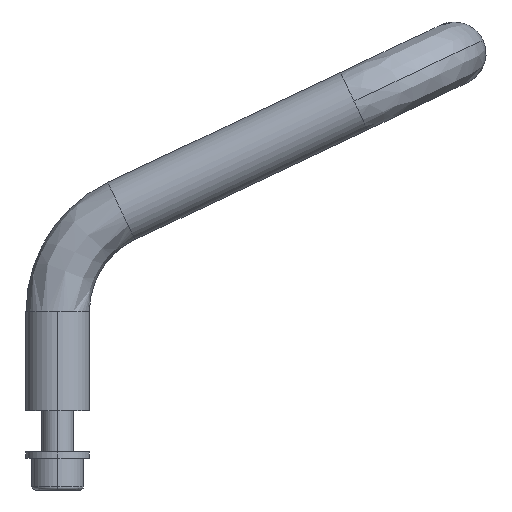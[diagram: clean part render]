
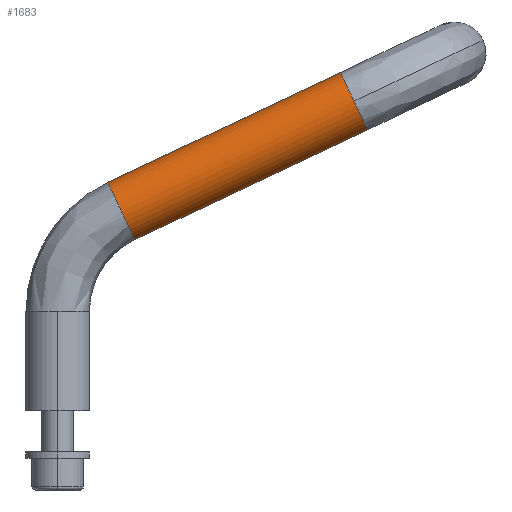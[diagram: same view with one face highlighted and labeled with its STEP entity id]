
A CAD part, left-side view. The second image highlights one B-rep face of the part: STEP entity #1683.
In plain terms, the highlighted cylindrical face has radius 8 mm (diameter 16 mm), a partial arc.
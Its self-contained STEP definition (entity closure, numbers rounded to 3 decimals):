
#120 = DIRECTION ( 'NONE',  ( 0., -0.427, -0.904 ) ) ;
#238 = CARTESIAN_POINT ( 'NONE',  ( -175., -19.454, 43.082 ) ) ;
#291 = EDGE_CURVE ( 'NONE', #1288, #713, #1073, .T. ) ;
#317 = DIRECTION ( 'NONE',  ( -1., 0., 0. ) ) ;
#323 = AXIS2_PLACEMENT_3D ( 'NONE', #390, #1920, #598 ) ;
#390 = CARTESIAN_POINT ( 'NONE',  ( -175., -74.685, 78.035 ) ) ;
#432 = EDGE_CURVE ( 'NONE', #713, #1072, #715, .T. ) ;
#479 = EDGE_CURVE ( 'NONE', #1124, #1072, #554, .T. ) ;
#489 = FACE_OUTER_BOUND ( 'NONE', #1625, .T. ) ;
#517 = CARTESIAN_POINT ( 'NONE',  ( -175., -74.685, 78.035 ) ) ;
#521 = VECTOR ( 'NONE', #1551, 1000. ) ;
#554 = LINE ( 'NONE', #1535, #521 ) ;
#585 = CARTESIAN_POINT ( 'NONE',  ( -175., -12.617, 57.548 ) ) ;
#598 = DIRECTION ( 'NONE',  ( -1., 0., 0. ) ) ;
#626 = AXIS2_PLACEMENT_3D ( 'NONE', #1437, #1255, #120 ) ;
#678 = AXIS2_PLACEMENT_3D ( 'NONE', #958, #2289, #1142 ) ;
#713 = VERTEX_POINT ( 'NONE', #1336 ) ;
#715 = CIRCLE ( 'NONE', #323, 8. ) ;
#738 = CIRCLE ( 'NONE', #678, 8. ) ;
#824 = ORIENTED_EDGE ( 'NONE', *, *, #291, .F. ) ;
#933 = CYLINDRICAL_SURFACE ( 'NONE', #626, 8. ) ;
#958 = CARTESIAN_POINT ( 'NONE',  ( -175., -16.035, 50.315 ) ) ;
#1028 = VERTEX_POINT ( 'NONE', #585 ) ;
#1072 = VERTEX_POINT ( 'NONE', #1524 ) ;
#1073 = CIRCLE ( 'NONE', #1150, 8. ) ;
#1083 = DIRECTION ( 'NONE',  ( 0., -0.904, 0.427 ) ) ;
#1095 = ORIENTED_EDGE ( 'NONE', *, *, #432, .F. ) ;
#1124 = VERTEX_POINT ( 'NONE', #238 ) ;
#1142 = DIRECTION ( 'NONE',  ( 0., -0.427, -0.904 ) ) ;
#1150 = AXIS2_PLACEMENT_3D ( 'NONE', #517, #1654, #317 ) ;
#1255 = DIRECTION ( 'NONE',  ( 0., -0.904, 0.427 ) ) ;
#1288 = VERTEX_POINT ( 'NONE', #2310 ) ;
#1322 = ORIENTED_EDGE ( 'NONE', *, *, #479, .T. ) ;
#1336 = CARTESIAN_POINT ( 'NONE',  ( -183., -74.685, 78.035 ) ) ;
#1437 = CARTESIAN_POINT ( 'NONE',  ( -175., -16.035, 50.315 ) ) ;
#1486 = EDGE_CURVE ( 'NONE', #1028, #1124, #738, .T. ) ;
#1524 = CARTESIAN_POINT ( 'NONE',  ( -175., -78.104, 70.802 ) ) ;
#1535 = CARTESIAN_POINT ( 'NONE',  ( -175., -19.454, 43.082 ) ) ;
#1551 = DIRECTION ( 'NONE',  ( 0., -0.904, 0.427 ) ) ;
#1625 = EDGE_LOOP ( 'NONE', ( #2447, #1850, #1322, #1095, #824 ) ) ;
#1654 = DIRECTION ( 'NONE',  ( 0., -0.904, 0.427 ) ) ;
#1683 = ADVANCED_FACE ( 'NONE', ( #489 ), #933, .T. ) ;
#1750 = EDGE_CURVE ( 'NONE', #1028, #1288, #2408, .T. ) ;
#1850 = ORIENTED_EDGE ( 'NONE', *, *, #1486, .T. ) ;
#1880 = VECTOR ( 'NONE', #1083, 1000. ) ;
#1920 = DIRECTION ( 'NONE',  ( 0., -0.904, 0.427 ) ) ;
#2289 = DIRECTION ( 'NONE',  ( 0., -0.904, 0.427 ) ) ;
#2310 = CARTESIAN_POINT ( 'NONE',  ( -175., -71.267, 85.268 ) ) ;
#2408 = LINE ( 'NONE', #2423, #1880 ) ;
#2423 = CARTESIAN_POINT ( 'NONE',  ( -175., -12.617, 57.548 ) ) ;
#2447 = ORIENTED_EDGE ( 'NONE', *, *, #1750, .F. ) ;
